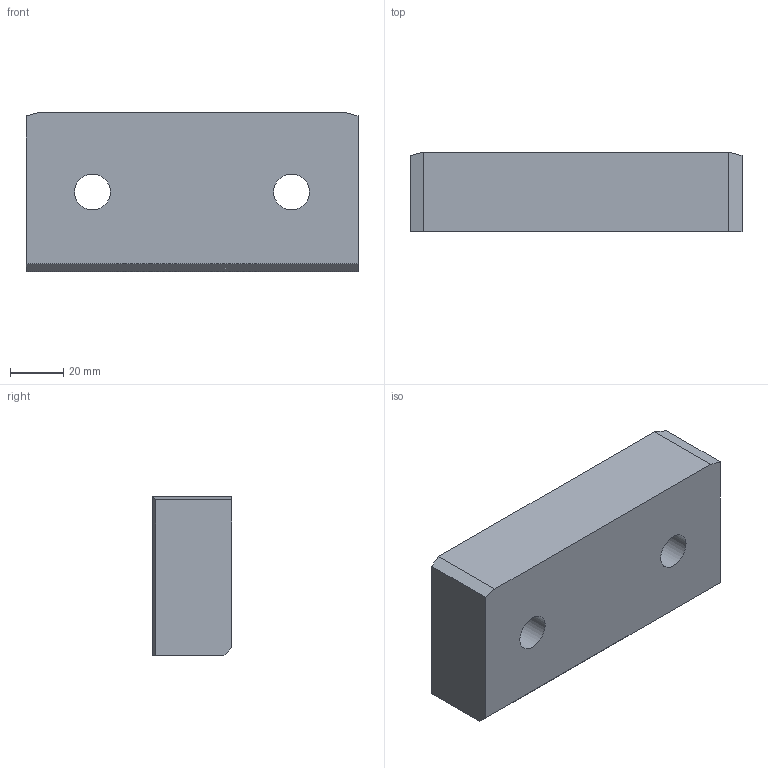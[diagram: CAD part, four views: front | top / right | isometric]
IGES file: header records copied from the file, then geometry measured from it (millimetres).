
Start section: Data from Parasolid IGES Translator 20.0.26, Copyright(c) 2006 Siemens P LM Software. All Rights Reserved.
Global section: file name: G224-12-030-125.igs; native system: By Siemens PLM Incorporated; preprocessor: XPlus GENERIC/IGES 20.0.26; author: Noname; organization: Noname; date: 20190709.085152; units: millimetre
Bounding box: 125 x 30 x 60 mm (x, y, z)
Surface area: 28141.3 mm2 (no closed solid volume)
Topology: 0 solids, 0 shells, 17 faces, 74 edges, 70 vertices
Faces by surface type: extrusion 13, revolution 4
